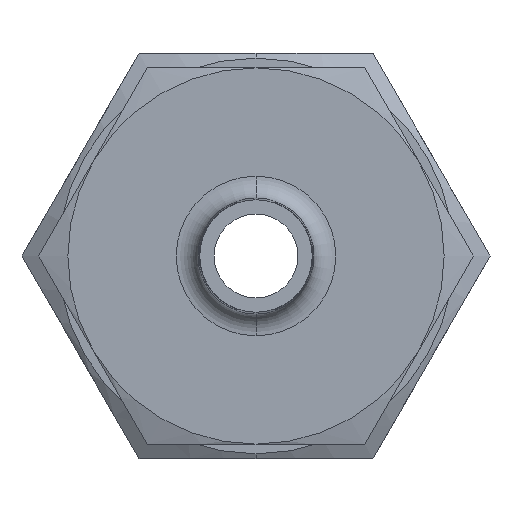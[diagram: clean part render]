
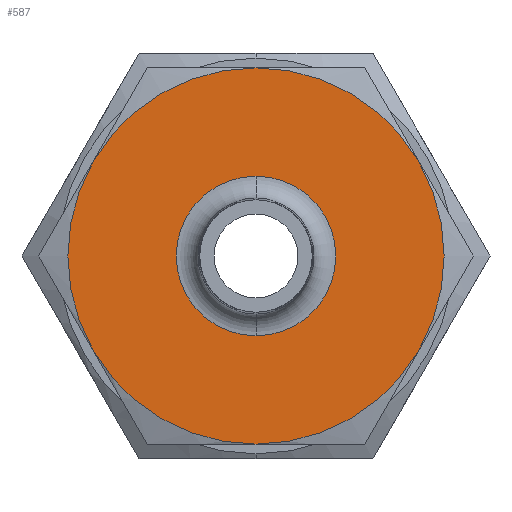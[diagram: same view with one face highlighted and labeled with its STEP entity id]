
A CAD part, left-side view. The second image highlights one B-rep face of the part: STEP entity #587.
In plain terms, the highlighted planar face has unit normal (-1, 0, 0).
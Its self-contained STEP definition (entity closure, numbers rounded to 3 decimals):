
#147 = VERTEX_POINT ( 'NONE', #772 ) ;
#158 = VERTEX_POINT ( 'NONE', #836 ) ;
#272 = VERTEX_POINT ( 'NONE', #1081 ) ;
#273 = VERTEX_POINT ( 'NONE', #1080 ) ;
#328 = EDGE_CURVE ( 'NONE', #272, #273, #999, .T. ) ;
#403 = VERTEX_POINT ( 'NONE', #1329 ) ;
#472 = EDGE_CURVE ( 'NONE', #617, #530, #1639, .T. ) ;
#513 = VERTEX_POINT ( 'NONE', #1663 ) ;
#530 = VERTEX_POINT ( 'NONE', #1591 ) ;
#540 = ORIENTED_EDGE ( 'NONE', *, *, #541, .F. ) ;
#541 = EDGE_CURVE ( 'NONE', #513, #403, #1462, .T. ) ;
#542 = ORIENTED_EDGE ( 'NONE', *, *, #543, .T. ) ;
#543 = EDGE_CURVE ( 'NONE', #513, #530, #1450, .T. ) ;
#544 = ORIENTED_EDGE ( 'NONE', *, *, #472, .F. ) ;
#587 = ADVANCED_FACE ( 'NONE', ( #1889, #1888 ), #1891, .F. ) ;
#588 = EDGE_LOOP ( 'NONE', ( #589, #591 ) ) ;
#589 = ORIENTED_EDGE ( 'NONE', *, *, #590, .T. ) ;
#590 = EDGE_CURVE ( 'NONE', #273, #272, #1969, .T. ) ;
#591 = ORIENTED_EDGE ( 'NONE', *, *, #328, .T. ) ;
#592 = EDGE_LOOP ( 'NONE', ( #593, #595, #607, #540, #542, #544 ) ) ;
#593 = ORIENTED_EDGE ( 'NONE', *, *, #594, .F. ) ;
#594 = EDGE_CURVE ( 'NONE', #158, #617, #1964, .T. ) ;
#595 = ORIENTED_EDGE ( 'NONE', *, *, #596, .F. ) ;
#596 = EDGE_CURVE ( 'NONE', #147, #158, #1959, .T. ) ;
#607 = ORIENTED_EDGE ( 'NONE', *, *, #608, .F. ) ;
#608 = EDGE_CURVE ( 'NONE', #403, #147, #1931, .T. ) ;
#617 = VERTEX_POINT ( 'NONE', #1876 ) ;
#772 = CARTESIAN_POINT ( 'NONE',  ( 0., -8.937, -5.16 ) ) ;
#836 = CARTESIAN_POINT ( 'NONE',  ( 0., 0., -10.32 ) ) ;
#995 = DIRECTION ( 'NONE',  ( 0., 0., -1. ) ) ;
#996 = DIRECTION ( 'NONE',  ( 1., 0., 0. ) ) ;
#997 = CARTESIAN_POINT ( 'NONE',  ( 0., 0., 0. ) ) ;
#998 = AXIS2_PLACEMENT_3D ( 'NONE', #997, #996, #995 ) ;
#999 = CIRCLE ( 'NONE', #998, 4.375 ) ;
#1080 = CARTESIAN_POINT ( 'NONE',  ( 0., 0., -4.375 ) ) ;
#1081 = CARTESIAN_POINT ( 'NONE',  ( 0., 0., 4.375 ) ) ;
#1329 = CARTESIAN_POINT ( 'NONE',  ( 0., -8.937, 5.16 ) ) ;
#1447 = DIRECTION ( 'NONE',  ( 0., 0., 1. ) ) ;
#1448 = DIRECTION ( 'NONE',  ( -1., 0., 0. ) ) ;
#1449 = AXIS2_PLACEMENT_3D ( 'NONE', #1455, #1448, #1447 ) ;
#1450 = CIRCLE ( 'NONE', #1449, 10.32 ) ;
#1451 = DIRECTION ( 'NONE',  ( 0., 0., -1. ) ) ;
#1452 = DIRECTION ( 'NONE',  ( 1., 0., 0. ) ) ;
#1453 = CARTESIAN_POINT ( 'NONE',  ( 0., 0., 0. ) ) ;
#1454 = AXIS2_PLACEMENT_3D ( 'NONE', #1453, #1452, #1451 ) ;
#1455 = CARTESIAN_POINT ( 'NONE',  ( 0., 0., 0. ) ) ;
#1462 = CIRCLE ( 'NONE', #1454, 10.32 ) ;
#1591 = CARTESIAN_POINT ( 'NONE',  ( 0., 8.937, 5.16 ) ) ;
#1635 = DIRECTION ( 'NONE',  ( 0., 0., -1. ) ) ;
#1636 = DIRECTION ( 'NONE',  ( 1., 0., 0. ) ) ;
#1637 = CARTESIAN_POINT ( 'NONE',  ( 0., 0., 0. ) ) ;
#1638 = AXIS2_PLACEMENT_3D ( 'NONE', #1637, #1636, #1635 ) ;
#1639 = CIRCLE ( 'NONE', #1638, 10.32 ) ;
#1663 = CARTESIAN_POINT ( 'NONE',  ( 0., 0., 10.32 ) ) ;
#1876 = CARTESIAN_POINT ( 'NONE',  ( 0., 8.937, -5.16 ) ) ;
#1878 = DIRECTION ( 'NONE',  ( 0., 0., -1. ) ) ;
#1879 = DIRECTION ( 'NONE',  ( 1., 0., 0. ) ) ;
#1880 = CARTESIAN_POINT ( 'NONE',  ( 0., 11.917, 0. ) ) ;
#1887 = AXIS2_PLACEMENT_3D ( 'NONE', #1880, #1879, #1878 ) ;
#1888 = FACE_OUTER_BOUND ( 'NONE', #592, .T. ) ;
#1889 = FACE_BOUND ( 'NONE', #588, .T. ) ;
#1891 = PLANE ( 'NONE',  #1887 ) ;
#1928 = DIRECTION ( 'NONE',  ( 0., 0., -1. ) ) ;
#1929 = DIRECTION ( 'NONE',  ( 1., 0., 0. ) ) ;
#1930 = AXIS2_PLACEMENT_3D ( 'NONE', #1944, #1929, #1928 ) ;
#1931 = CIRCLE ( 'NONE', #1930, 10.32 ) ;
#1944 = CARTESIAN_POINT ( 'NONE',  ( 0., 0., 0. ) ) ;
#1955 = DIRECTION ( 'NONE',  ( 0., 0., -1. ) ) ;
#1956 = DIRECTION ( 'NONE',  ( 1., 0., 0. ) ) ;
#1957 = CARTESIAN_POINT ( 'NONE',  ( 0., 0., 0. ) ) ;
#1958 = AXIS2_PLACEMENT_3D ( 'NONE', #1957, #1956, #1955 ) ;
#1959 = CIRCLE ( 'NONE', #1958, 10.32 ) ;
#1960 = DIRECTION ( 'NONE',  ( 0., 0., -1. ) ) ;
#1961 = DIRECTION ( 'NONE',  ( 1., 0., 0. ) ) ;
#1962 = CARTESIAN_POINT ( 'NONE',  ( 0., 0., 0. ) ) ;
#1963 = AXIS2_PLACEMENT_3D ( 'NONE', #1962, #1961, #1960 ) ;
#1964 = CIRCLE ( 'NONE', #1963, 10.32 ) ;
#1965 = DIRECTION ( 'NONE',  ( 0., 0., -1. ) ) ;
#1966 = DIRECTION ( 'NONE',  ( 1., 0., 0. ) ) ;
#1967 = CARTESIAN_POINT ( 'NONE',  ( 0., 0., 0. ) ) ;
#1968 = AXIS2_PLACEMENT_3D ( 'NONE', #1967, #1966, #1965 ) ;
#1969 = CIRCLE ( 'NONE', #1968, 4.375 ) ;
